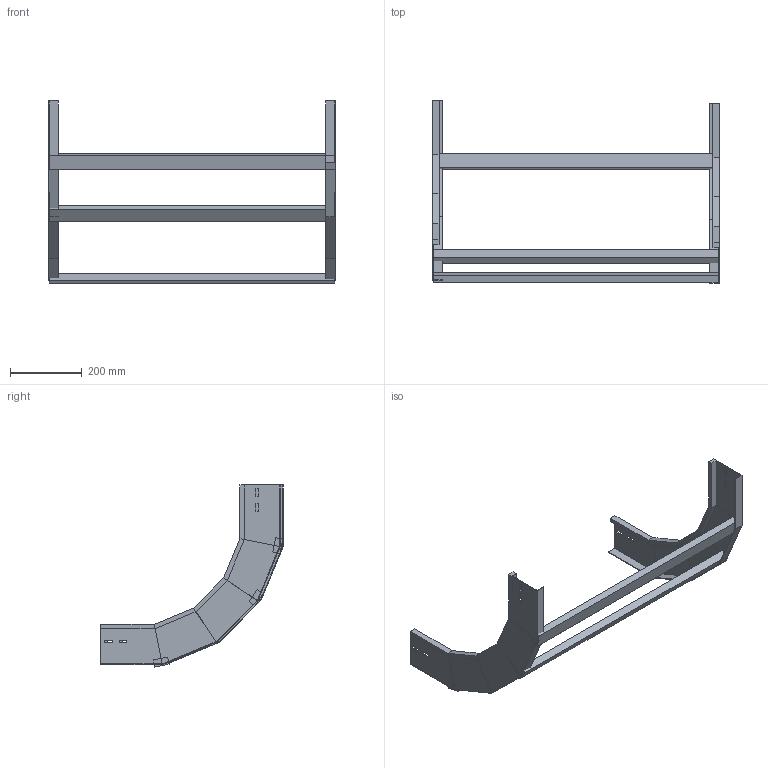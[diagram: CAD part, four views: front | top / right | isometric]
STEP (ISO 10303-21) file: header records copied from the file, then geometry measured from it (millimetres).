
FILE_DESCRIPTION (( 'STEP AP214' ), '1' );
FILE_NAME ('A2X30B3J800XX.step', '2025-04-02T09:20:02', ( '' ), ( '' ), 'SwSTEP 2.0', 'SolidWorks 2023', '' );
FILE_SCHEMA (( 'AUTOMOTIVE_DESIGN' ));
Length unit declared in the file: millimetre
Products named in the file (3): TRAVERSINO_800; LONGH.SALITA_90°_H112.5_R300; A2X30B3J800XX
Assembly tree (5 placements, depth 2):
  A2X30B3J800XX
    LONGH.SALITA_90°_H112.5_R300  x2
    TRAVERSINO_800  x3
Bounding box: 800 x 509.89 x 507.89 mm (x, y, z)
Volume: 2605909.2 mm3; surface area: 761322.1 mm2
Topology: 5 solids, 5 shells, 134 faces, 308 edges, 184 vertices
Faces by surface type: plane 134
Entity records: 1864 total; most frequent: CARTESIAN_POINT 308, ORIENTED_EDGE 296, DIRECTION 292, LINE 148, VECTOR 148, EDGE_CURVE 148, VERTEX_POINT 88, AXIS2_PLACEMENT_3D 72
